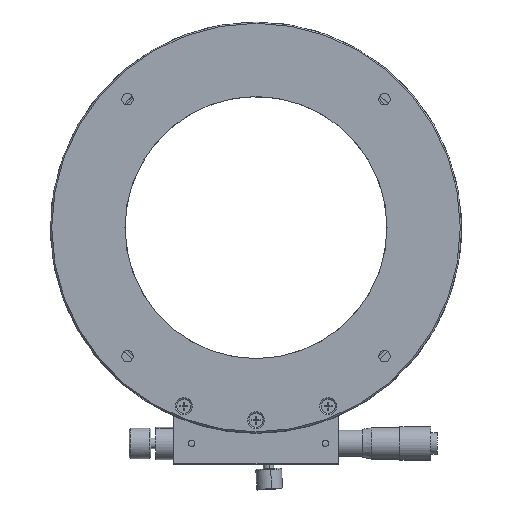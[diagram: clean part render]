
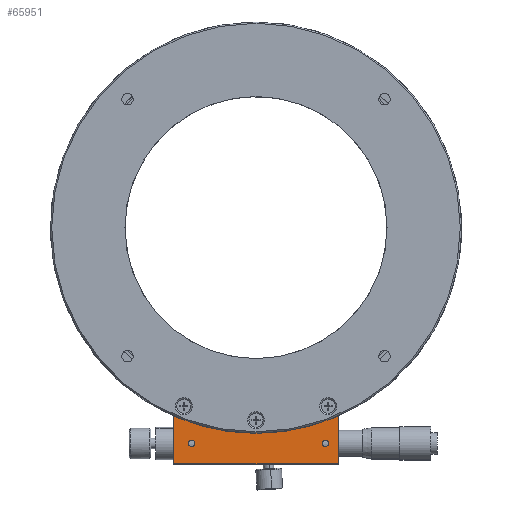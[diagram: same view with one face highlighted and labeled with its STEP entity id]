
A CAD part, top view. The second image highlights one B-rep face of the part: STEP entity #65951.
In plain terms, the highlighted planar face has unit normal (0, 0, 1).
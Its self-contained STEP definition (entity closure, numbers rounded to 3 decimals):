
#133 = DIRECTION ( 'NONE',  ( 0., 0., 1. ) ) ;
#677 = DIRECTION ( 'NONE',  ( 0., -1., 0. ) ) ;
#1421 = CARTESIAN_POINT ( 'NONE',  ( 22.19, -128.666, 94.193 ) ) ;
#1469 = CIRCLE ( 'NONE', #51881, 1.25 ) ;
#2767 = CARTESIAN_POINT ( 'NONE',  ( 74.19, -129.916, 94.193 ) ) ;
#3026 = DIRECTION ( 'NONE',  ( 0., -1., 0. ) ) ;
#3491 = CARTESIAN_POINT ( 'NONE',  ( 22.19, -129.916, 94.193 ) ) ;
#4222 = AXIS2_PLACEMENT_3D ( 'NONE', #62409, #56539, #677 ) ;
#4581 = CARTESIAN_POINT ( 'NONE',  ( 74.19, -129.916, 94.193 ) ) ;
#5352 = VERTEX_POINT ( 'NONE', #20685 ) ;
#5517 = CIRCLE ( 'NONE', #49973, 1.25 ) ;
#6340 = CARTESIAN_POINT ( 'NONE',  ( 22.19, -129.916, 94.193 ) ) ;
#7113 = VERTEX_POINT ( 'NONE', #19719 ) ;
#8727 = FACE_OUTER_BOUND ( 'NONE', #35693, .T. ) ;
#9099 = VERTEX_POINT ( 'NONE', #62435 ) ;
#9730 = AXIS2_PLACEMENT_3D ( 'NONE', #62075, #133, #25650 ) ;
#10290 = EDGE_CURVE ( 'NONE', #9099, #66325, #32868, .T. ) ;
#10775 = VECTOR ( 'NONE', #22730, 1000. ) ;
#12405 = ORIENTED_EDGE ( 'NONE', *, *, #23597, .T. ) ;
#13695 = CIRCLE ( 'NONE', #25267, 80.1 ) ;
#15674 = ORIENTED_EDGE ( 'NONE', *, *, #37756, .T. ) ;
#15861 = DIRECTION ( 'NONE',  ( 0., 0., -1. ) ) ;
#16279 = VECTOR ( 'NONE', #58925, 1000. ) ;
#18605 = DIRECTION ( 'NONE',  ( 0., 0., -1. ) ) ;
#19456 = DIRECTION ( 'NONE',  ( 0., -1., 0. ) ) ;
#19719 = CARTESIAN_POINT ( 'NONE',  ( 74.19, -131.166, 94.193 ) ) ;
#20629 = CARTESIAN_POINT ( 'NONE',  ( 74.19, -128.666, 94.193 ) ) ;
#20685 = CARTESIAN_POINT ( 'NONE',  ( 15.19, -137.916, 94.193 ) ) ;
#21068 = VECTOR ( 'NONE', #52742, 1000. ) ;
#22709 = EDGE_CURVE ( 'NONE', #48003, #9099, #51796, .T. ) ;
#22730 = DIRECTION ( 'NONE',  ( 0., 1., 0. ) ) ;
#22878 = ORIENTED_EDGE ( 'NONE', *, *, #28973, .T. ) ;
#23100 = EDGE_CURVE ( 'NONE', #49940, #5352, #25886, .T. ) ;
#23597 = EDGE_CURVE ( 'NONE', #5352, #48003, #26638, .T. ) ;
#24806 = ORIENTED_EDGE ( 'NONE', *, *, #23100, .T. ) ;
#25267 = AXIS2_PLACEMENT_3D ( 'NONE', #45415, #45192, #19456 ) ;
#25650 = DIRECTION ( 'NONE',  ( 0., -1., 0. ) ) ;
#25748 = DIRECTION ( 'NONE',  ( 0., -1., 0. ) ) ;
#25886 = LINE ( 'NONE', #53052, #16279 ) ;
#26638 = LINE ( 'NONE', #62743, #21068 ) ;
#27393 = EDGE_CURVE ( 'NONE', #43586, #7113, #36304, .T. ) ;
#28637 = AXIS2_PLACEMENT_3D ( 'NONE', #6340, #15861, #41597 ) ;
#28973 = EDGE_CURVE ( 'NONE', #7113, #43586, #5517, .T. ) ;
#29220 = ORIENTED_EDGE ( 'NONE', *, *, #27393, .T. ) ;
#32868 = CIRCLE ( 'NONE', #4222, 80.1 ) ;
#32899 = DIRECTION ( 'NONE',  ( 0., 0., -1. ) ) ;
#33945 = AXIS2_PLACEMENT_3D ( 'NONE', #4581, #40476, #25748 ) ;
#34663 = CARTESIAN_POINT ( 'NONE',  ( 15.19, -119.346, 94.193 ) ) ;
#34964 = VERTEX_POINT ( 'NONE', #55956 ) ;
#35693 = EDGE_LOOP ( 'NONE', ( #51132, #55958, #15674, #24806, #12405 ) ) ;
#36304 = CIRCLE ( 'NONE', #33945, 1.25 ) ;
#37756 = EDGE_CURVE ( 'NONE', #66325, #49940, #13695, .T. ) ;
#38685 = DIRECTION ( 'NONE',  ( 0., -1., 0. ) ) ;
#40476 = DIRECTION ( 'NONE',  ( 0., 0., -1. ) ) ;
#41597 = DIRECTION ( 'NONE',  ( 0., -1., 0. ) ) ;
#43174 = ORIENTED_EDGE ( 'NONE', *, *, #44963, .T. ) ;
#43586 = VERTEX_POINT ( 'NONE', #20629 ) ;
#43660 = CIRCLE ( 'NONE', #28637, 1.25 ) ;
#44963 = EDGE_CURVE ( 'NONE', #34964, #60647, #43660, .T. ) ;
#45192 = DIRECTION ( 'NONE',  ( 0., 0., -1. ) ) ;
#45415 = CARTESIAN_POINT ( 'NONE',  ( 47.19, -45.916, 94.193 ) ) ;
#47957 = CARTESIAN_POINT ( 'NONE',  ( 79.19, -137.916, 94.193 ) ) ;
#48003 = VERTEX_POINT ( 'NONE', #47957 ) ;
#48473 = EDGE_LOOP ( 'NONE', ( #43174, #50402 ) ) ;
#49940 = VERTEX_POINT ( 'NONE', #34663 ) ;
#49973 = AXIS2_PLACEMENT_3D ( 'NONE', #2767, #32899, #38685 ) ;
#50402 = ORIENTED_EDGE ( 'NONE', *, *, #66304, .T. ) ;
#51132 = ORIENTED_EDGE ( 'NONE', *, *, #22709, .T. ) ;
#51796 = LINE ( 'NONE', #57135, #10775 ) ;
#51881 = AXIS2_PLACEMENT_3D ( 'NONE', #3491, #18605, #3026 ) ;
#52742 = DIRECTION ( 'NONE',  ( 1., 0., 0. ) ) ;
#53052 = CARTESIAN_POINT ( 'NONE',  ( 15.19, -119.5, 94.193 ) ) ;
#54527 = CARTESIAN_POINT ( 'NONE',  ( 47.19, -126.016, 94.193 ) ) ;
#55956 = CARTESIAN_POINT ( 'NONE',  ( 22.19, -131.166, 94.193 ) ) ;
#55958 = ORIENTED_EDGE ( 'NONE', *, *, #10290, .T. ) ;
#56198 = PLANE ( 'NONE',  #9730 ) ;
#56539 = DIRECTION ( 'NONE',  ( 0., 0., -1. ) ) ;
#57135 = CARTESIAN_POINT ( 'NONE',  ( 79.19, -119.5, 94.193 ) ) ;
#58611 = FACE_BOUND ( 'NONE', #65058, .T. ) ;
#58925 = DIRECTION ( 'NONE',  ( 0., -1., 0. ) ) ;
#60647 = VERTEX_POINT ( 'NONE', #1421 ) ;
#62075 = CARTESIAN_POINT ( 'NONE',  ( 63.658, -119.5, 94.193 ) ) ;
#62409 = CARTESIAN_POINT ( 'NONE',  ( 47.19, -45.916, 94.193 ) ) ;
#62435 = CARTESIAN_POINT ( 'NONE',  ( 79.19, -119.346, 94.193 ) ) ;
#62735 = FACE_BOUND ( 'NONE', #48473, .T. ) ;
#62743 = CARTESIAN_POINT ( 'NONE',  ( 63.658, -137.916, 94.193 ) ) ;
#65058 = EDGE_LOOP ( 'NONE', ( #22878, #29220 ) ) ;
#65951 = ADVANCED_FACE ( 'NONE', ( #8727, #62735, #58611 ), #56198, .T. ) ;
#66304 = EDGE_CURVE ( 'NONE', #60647, #34964, #1469, .T. ) ;
#66325 = VERTEX_POINT ( 'NONE', #54527 ) ;
